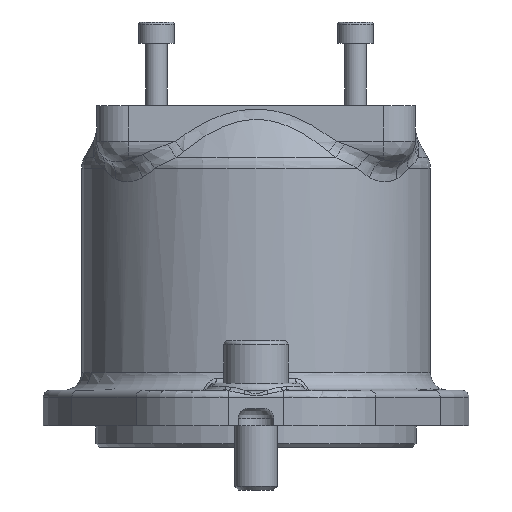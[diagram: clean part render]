
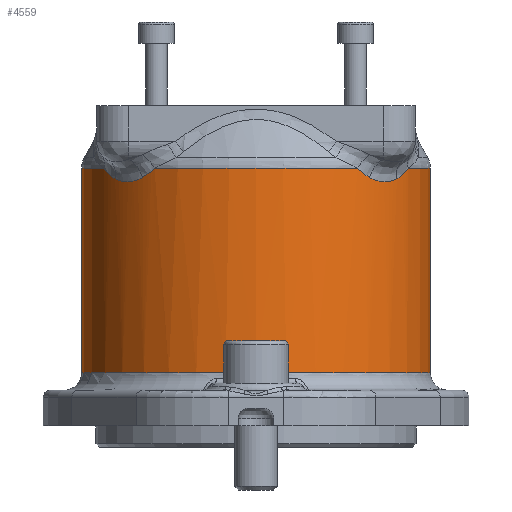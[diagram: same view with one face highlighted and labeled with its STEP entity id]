
A CAD part, front view. The second image highlights one B-rep face of the part: STEP entity #4559.
In plain terms, the highlighted cylindrical face has radius 49 mm (diameter 98 mm), a full revolution.
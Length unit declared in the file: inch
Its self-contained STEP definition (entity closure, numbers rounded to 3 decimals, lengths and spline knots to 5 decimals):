
#85=B_SPLINE_CURVE_WITH_KNOTS('',3,(#8394,#8395,#8396,#8397,#8398,#8399),
 .UNSPECIFIED.,.F.,.F.,(4,1,1,4),(-1.61766,-1.15547,-0.92438,
0.),.UNSPECIFIED.);
#86=B_SPLINE_CURVE_WITH_KNOTS('',3,(#8403,#8404,#8405,#8406,#8407,#8408),
 .UNSPECIFIED.,.F.,.F.,(4,1,1,4),(0.,0.92438,1.15547,
1.61766),.UNSPECIFIED.);
#87=B_SPLINE_CURVE_WITH_KNOTS('',3,(#8415,#8416,#8417,#8418),
 .UNSPECIFIED.,.F.,.F.,(4,4),(-0.73568,0.),
 .UNSPECIFIED.);
#88=B_SPLINE_CURVE_WITH_KNOTS('',3,(#8420,#8421,#8422,#8423,#8424,#8425,
#8426),.UNSPECIFIED.,.F.,.F.,(4,1,1,1,4),(-1.30261,-0.93043,
-0.74435,-0.37217,0.),
 .UNSPECIFIED.);
#89=B_SPLINE_CURVE_WITH_KNOTS('',3,(#8428,#8429,#8430,#8431),
 .UNSPECIFIED.,.F.,.F.,(4,4),(0.,0.54074),
 .UNSPECIFIED.);
#90=B_SPLINE_CURVE_WITH_KNOTS('',3,(#8435,#8436,#8437,#8438),
 .UNSPECIFIED.,.F.,.F.,(4,4),(-0.54074,0.),
 .UNSPECIFIED.);
#91=B_SPLINE_CURVE_WITH_KNOTS('',3,(#8440,#8441,#8442,#8443,#8444,#8445,
#8446),.UNSPECIFIED.,.F.,.F.,(4,1,1,1,4),(-1.3025,-0.93036,
-0.55822,-0.37214,0.),
 .UNSPECIFIED.);
#92=B_SPLINE_CURVE_WITH_KNOTS('',3,(#8448,#8449,#8450,#8451),
 .UNSPECIFIED.,.F.,.F.,(4,4),(0.,0.73568),
 .UNSPECIFIED.);
#175=CYLINDRICAL_SURFACE('',#5043,1.92913);
#449=LINE('',#8411,#677);
#677=VECTOR('',#6132,1.92913);
#1014=FACE_OUTER_BOUND('',#1317,.T.);
#1317=EDGE_LOOP('',(#3661,#3662,#3663,#3664,#3665,#3666,#3667,#3668,#3669,
#3670,#3671,#3672,#3673,#3674,#3675,#3676,#3677));
#1553=CIRCLE('',#4981,1.92913);
#1554=CIRCLE('',#4982,1.92913);
#1593=CIRCLE('',#5044,1.92913);
#1594=CIRCLE('',#5045,1.92913);
#1595=CIRCLE('',#5046,1.92913);
#1596=CIRCLE('',#5047,1.92913);
#1597=CIRCLE('',#5048,1.92913);
#1945=VERTEX_POINT('',#7996);
#1946=VERTEX_POINT('',#7998);
#1979=VERTEX_POINT('',#8392);
#1980=VERTEX_POINT('',#8393);
#1981=VERTEX_POINT('',#8400);
#1982=VERTEX_POINT('',#8402);
#1983=VERTEX_POINT('',#8409);
#1984=VERTEX_POINT('',#8412);
#1985=VERTEX_POINT('',#8414);
#1986=VERTEX_POINT('',#8419);
#1987=VERTEX_POINT('',#8427);
#1988=VERTEX_POINT('',#8432);
#1989=VERTEX_POINT('',#8434);
#1990=VERTEX_POINT('',#8439);
#1991=VERTEX_POINT('',#8447);
#2490=EDGE_CURVE('',#1945,#1946,#1553,.T.);
#2491=EDGE_CURVE('',#1946,#1945,#1554,.T.);
#2553=EDGE_CURVE('',#1979,#1980,#85,.T.);
#2554=EDGE_CURVE('',#1981,#1979,#1593,.T.);
#2555=EDGE_CURVE('',#1982,#1981,#86,.T.);
#2556=EDGE_CURVE('',#1983,#1982,#1594,.T.);
#2557=EDGE_CURVE('',#1983,#1946,#449,.T.);
#2558=EDGE_CURVE('',#1984,#1983,#1595,.T.);
#2559=EDGE_CURVE('',#1985,#1984,#87,.T.);
#2560=EDGE_CURVE('',#1986,#1985,#88,.T.);
#2561=EDGE_CURVE('',#1987,#1986,#89,.T.);
#2562=EDGE_CURVE('',#1988,#1987,#1596,.T.);
#2563=EDGE_CURVE('',#1989,#1988,#90,.T.);
#2564=EDGE_CURVE('',#1990,#1989,#91,.T.);
#2565=EDGE_CURVE('',#1991,#1990,#92,.T.);
#2566=EDGE_CURVE('',#1980,#1991,#1597,.T.);
#3661=ORIENTED_EDGE('',*,*,#2553,.F.);
#3662=ORIENTED_EDGE('',*,*,#2554,.F.);
#3663=ORIENTED_EDGE('',*,*,#2555,.F.);
#3664=ORIENTED_EDGE('',*,*,#2556,.F.);
#3665=ORIENTED_EDGE('',*,*,#2557,.T.);
#3666=ORIENTED_EDGE('',*,*,#2490,.F.);
#3667=ORIENTED_EDGE('',*,*,#2491,.F.);
#3668=ORIENTED_EDGE('',*,*,#2557,.F.);
#3669=ORIENTED_EDGE('',*,*,#2558,.F.);
#3670=ORIENTED_EDGE('',*,*,#2559,.F.);
#3671=ORIENTED_EDGE('',*,*,#2560,.F.);
#3672=ORIENTED_EDGE('',*,*,#2561,.F.);
#3673=ORIENTED_EDGE('',*,*,#2562,.F.);
#3674=ORIENTED_EDGE('',*,*,#2563,.F.);
#3675=ORIENTED_EDGE('',*,*,#2564,.F.);
#3676=ORIENTED_EDGE('',*,*,#2565,.F.);
#3677=ORIENTED_EDGE('',*,*,#2566,.F.);
#4559=ADVANCED_FACE('',(#1014),#175,.T.);
#4981=AXIS2_PLACEMENT_3D('',#7999,#5993,#5994);
#4982=AXIS2_PLACEMENT_3D('',#8000,#5995,#5996);
#5043=AXIS2_PLACEMENT_3D('',#8391,#6126,#6127);
#5044=AXIS2_PLACEMENT_3D('',#8401,#6128,#6129);
#5045=AXIS2_PLACEMENT_3D('',#8410,#6130,#6131);
#5046=AXIS2_PLACEMENT_3D('',#8413,#6133,#6134);
#5047=AXIS2_PLACEMENT_3D('',#8433,#6135,#6136);
#5048=AXIS2_PLACEMENT_3D('',#8452,#6137,#6138);
#5993=DIRECTION('center_axis',(0.,0.,-1.));
#5994=DIRECTION('ref_axis',(-1.,0.,0.));
#5995=DIRECTION('center_axis',(0.,0.,-1.));
#5996=DIRECTION('ref_axis',(-1.,0.,0.));
#6126=DIRECTION('center_axis',(0.,0.,1.));
#6127=DIRECTION('ref_axis',(-1.,0.,0.));
#6128=DIRECTION('center_axis',(0.,0.,
1.));
#6129=DIRECTION('ref_axis',(0.,1.,0.));
#6130=DIRECTION('center_axis',(0.,0.,1.));
#6131=DIRECTION('ref_axis',(-1.,0.,0.));
#6132=DIRECTION('',(0.,0.,-1.));
#6133=DIRECTION('center_axis',(0.,0.,1.));
#6134=DIRECTION('ref_axis',(-1.,0.,0.));
#6135=DIRECTION('center_axis',(0.,0.,1.));
#6136=DIRECTION('ref_axis',(-1.,0.,0.));
#6137=DIRECTION('center_axis',(0.,0.,1.));
#6138=DIRECTION('ref_axis',(-1.,0.,0.));
#7996=CARTESIAN_POINT('',(-1.92913,0.,0.59055));
#7998=CARTESIAN_POINT('',(1.92913,0.,0.59055));
#7999=CARTESIAN_POINT('Origin',(0.,0.,0.59055));
#8000=CARTESIAN_POINT('Origin',(0.,0.,0.59055));
#8391=CARTESIAN_POINT('Origin',(0.,0.,0.));
#8392=CARTESIAN_POINT('',(-1.35916,1.36903,2.67717));
#8393=CARTESIAN_POINT('',(-1.6857,0.93807,2.85151));
#8394=CARTESIAN_POINT('Ctrl Pts',(-1.35916,1.36903,2.67717));
#8395=CARTESIAN_POINT('Ctrl Pts',(-1.39776,1.33071,2.67717));
#8396=CARTESIAN_POINT('Ctrl Pts',(-1.45352,1.27028,2.68604));
#8397=CARTESIAN_POINT('Ctrl Pts',(-1.57054,1.12683,2.73133));
#8398=CARTESIAN_POINT('Ctrl Pts',(-1.64059,1.01913,2.78926));
#8399=CARTESIAN_POINT('Ctrl Pts',(-1.6857,0.93807,2.85151));
#8400=CARTESIAN_POINT('',(1.35916,1.36903,2.67717));
#8401=CARTESIAN_POINT('Origin',(0.,0.,2.67717));
#8402=CARTESIAN_POINT('',(1.6857,0.93807,2.85151));
#8403=CARTESIAN_POINT('Ctrl Pts',(1.6857,0.93807,2.85151));
#8404=CARTESIAN_POINT('Ctrl Pts',(1.64059,1.01913,2.78926));
#8405=CARTESIAN_POINT('Ctrl Pts',(1.57054,1.12683,2.73133));
#8406=CARTESIAN_POINT('Ctrl Pts',(1.45352,1.27028,2.68604));
#8407=CARTESIAN_POINT('Ctrl Pts',(1.39776,1.33071,2.67717));
#8408=CARTESIAN_POINT('Ctrl Pts',(1.35916,1.36903,2.67717));
#8409=CARTESIAN_POINT('',(1.92913,0.,2.85151));
#8410=CARTESIAN_POINT('Origin',(0.,0.,2.85151));
#8411=CARTESIAN_POINT('',(1.92913,0.,0.));
#8412=CARTESIAN_POINT('',(1.6857,-0.93807,2.85151));
#8413=CARTESIAN_POINT('Origin',(0.,0.,2.85151));
#8414=CARTESIAN_POINT('',(1.55833,-1.13717,2.73341));
#8415=CARTESIAN_POINT('Ctrl Pts',(1.55833,-1.13717,2.73341));
#8416=CARTESIAN_POINT('Ctrl Pts',(1.60694,-1.07056,2.76271));
#8417=CARTESIAN_POINT('Ctrl Pts',(1.6498,-1.00258,2.80196));
#8418=CARTESIAN_POINT('Ctrl Pts',(1.6857,-0.93807,2.85151));
#8419=CARTESIAN_POINT('',(1.25394,-1.46601,2.74936));
#8420=CARTESIAN_POINT('Ctrl Pts',(1.25394,-1.46601,2.74936));
#8421=CARTESIAN_POINT('Ctrl Pts',(1.28456,-1.43982,2.73092));
#8422=CARTESIAN_POINT('Ctrl Pts',(1.33159,-1.39703,2.7122));
#8423=CARTESIAN_POINT('Ctrl Pts',(1.40793,-1.32006,2.69912));
#8424=CARTESIAN_POINT('Ctrl Pts',(1.48085,-1.23868,2.70067));
#8425=CARTESIAN_POINT('Ctrl Pts',(1.53388,-1.17068,2.71866));
#8426=CARTESIAN_POINT('Ctrl Pts',(1.55833,-1.13717,2.73341));
#8427=CARTESIAN_POINT('',(1.1225,-1.56893,2.85151));
#8428=CARTESIAN_POINT('Ctrl Pts',(1.1225,-1.56893,2.85151));
#8429=CARTESIAN_POINT('Ctrl Pts',(1.16432,-1.53901,2.81022));
#8430=CARTESIAN_POINT('Ctrl Pts',(1.20919,-1.50429,2.7763));
#8431=CARTESIAN_POINT('Ctrl Pts',(1.25394,-1.46601,2.74936));
#8432=CARTESIAN_POINT('',(-1.1225,-1.56893,2.85151));
#8433=CARTESIAN_POINT('Origin',(0.,0.,2.85151));
#8434=CARTESIAN_POINT('',(-1.25394,-1.46601,2.74936));
#8435=CARTESIAN_POINT('Ctrl Pts',(-1.25394,-1.46601,2.74936));
#8436=CARTESIAN_POINT('Ctrl Pts',(-1.20919,-1.50429,2.7763));
#8437=CARTESIAN_POINT('Ctrl Pts',(-1.16432,-1.53901,2.81022));
#8438=CARTESIAN_POINT('Ctrl Pts',(-1.1225,-1.56893,2.85151));
#8439=CARTESIAN_POINT('',(-1.55833,-1.13717,2.73341));
#8440=CARTESIAN_POINT('Ctrl Pts',(-1.55833,-1.13717,2.73341));
#8441=CARTESIAN_POINT('Ctrl Pts',(-1.53388,-1.17068,2.71867));
#8442=CARTESIAN_POINT('Ctrl Pts',(-1.48098,-1.23853,2.7007));
#8443=CARTESIAN_POINT('Ctrl Pts',(-1.40803,-1.31996,2.69911));
#8444=CARTESIAN_POINT('Ctrl Pts',(-1.33173,-1.39689,2.71215));
#8445=CARTESIAN_POINT('Ctrl Pts',(-1.28456,-1.43983,2.73092));
#8446=CARTESIAN_POINT('Ctrl Pts',(-1.25394,-1.46601,2.74936));
#8447=CARTESIAN_POINT('',(-1.6857,-0.93807,2.85151));
#8448=CARTESIAN_POINT('Ctrl Pts',(-1.6857,-0.93807,2.85151));
#8449=CARTESIAN_POINT('Ctrl Pts',(-1.6498,-1.00258,2.80196));
#8450=CARTESIAN_POINT('Ctrl Pts',(-1.60694,-1.07056,2.76271));
#8451=CARTESIAN_POINT('Ctrl Pts',(-1.55833,-1.13717,2.73341));
#8452=CARTESIAN_POINT('Origin',(0.,0.,2.85151));
